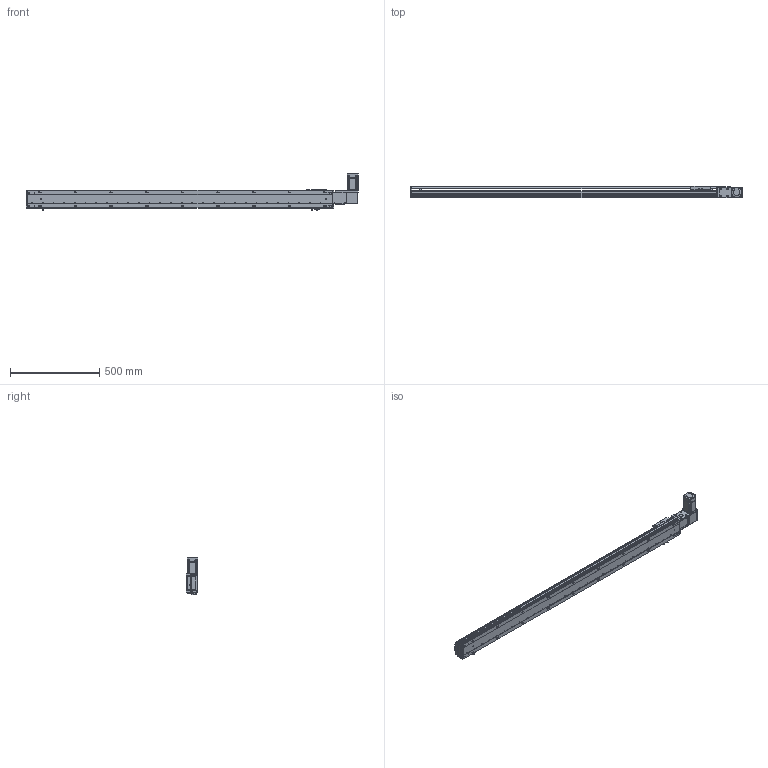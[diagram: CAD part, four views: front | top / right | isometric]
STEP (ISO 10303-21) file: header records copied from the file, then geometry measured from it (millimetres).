
FILE_DESCRIPTION (( 'STEP AP203' ), '1' );
FILE_NAME ('RY100-T-300-RK.SLDASM_1500.step', '2024-04-25T08:23:18', ( '盈信电脑' ), ( '东莞市道滘镇水果街19号' ), 'SwSTEP 2.0', 'SolidWorks 2016', '' );
FILE_SCHEMA (( 'CONFIG_CONTROL_DESIGN' ));
Length unit declared in the file: millimetre
Products named in the file (15): RY100-T粣創揤踡裔; 1; RY100-T肮祭謫翋盓傅釱; 覜茼ん672; RY100俋离覜茼え; RY100-T-300-RK.SLDASM_1500; 滅袉蝶18-10; 侂狟200W萇儂; RY100-T左右折电机安装板; RY100-T-300-RK倰第奻裔_1500; RY100-T肮祭謫臏賑輸; RY100-T翋肮祭謫裔啣2; RY100綴裔啣; RY80-T肮祭謫俋欶; RY100-T-300-RK倰第菁釱_1500
Assembly tree (18 placements, depth 3):
  RY100-T-300-RK.SLDASM_1500
    RY100-T-300-RK倰第菁釱_1500
    RY100-T-300-RK倰第奻裔_1500
    RY100-T肮祭謫臏賑輸
    RY100綴裔啣
    覜茼ん672  x3
    RY100俋离覜茼え
    RY100-T肮祭謫翋盓傅釱
    RY100-T左右折电机安装板
    侂狟200W萇儂
      1
    RY100-T粣創揤踡裔
    滅袉蝶18-10  x2
    RY100-T翋肮祭謫裔啣2  x2
    RY80-T肮祭謫俋欶
Bounding box: 1864 x 66 x 209.7 mm (x, y, z)
Volume: 3424010.8 mm3; surface area: 1433818.3 mm2
Topology: 17 solids, 17 shells, 2245 faces, 6271 edges, 4079 vertices
Faces by surface type: plane 1197, cylinder 835, cone 135, bspline 78
Entity records: 72309 total; most frequent: CARTESIAN_POINT 17579, ORIENTED_EDGE 11278, DIRECTION 10731, EDGE_CURVE 5639, VERTEX_POINT 3715, LINE 3599, VECTOR 3599, AXIS2_PLACEMENT_3D 3566
